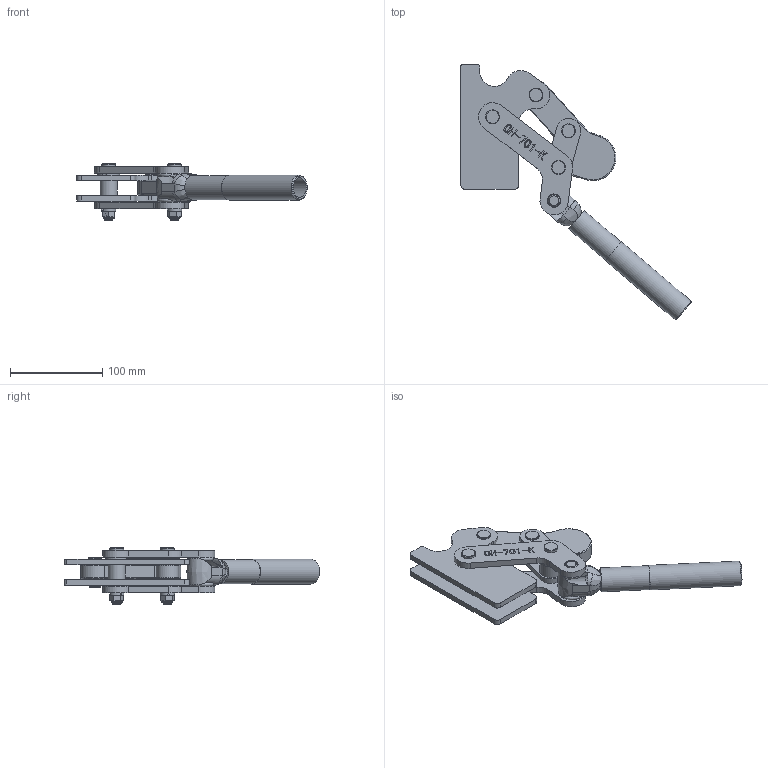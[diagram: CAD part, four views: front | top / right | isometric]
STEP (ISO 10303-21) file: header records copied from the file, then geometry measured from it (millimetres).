
FILE_DESCRIPTION(/* description */ ('STEP AP203'),/* implementation_level */ '2;1');
FILE_NAME(/* name */ 'D:\Vault_2016\Projekty\NASZ KATALOG\CLAMPTEK\STRONA\Heavy duty weldables\CH-701-K\CH-701-K_OTWARTY.stp',/* time_stamp */ '2019-01-14T14:04:32+01:00',/* author */ ('CADENGINEERING4'),/* organization */ ('Î¢ÈíÖÐ¹ú'),/* preprocessor_version */ 'ST-DEVELOPER v17.2',/* originating_system */ 'Autodesk Inventor 2019',/* authorisation */ '');
FILE_SCHEMA (('AUTOMOTIVE_DESIGN { 1 0 10303 214 3 1 1 }'));
Length unit declared in the file: millimetre
Products named in the file (14): CH-701-K_OTWARTY; 701-K-01_Ä¬ÈÏ; 702-K-08_Ä¬ÈÏ; 702-K-03_Ä¬ÈÏ; 702-K-06_Ä¬ÈÏ; 702-K-10_Ä¬ÈÏ; 702-K-12_Ä¬ÈÏ; 702-K-13_Ä¬ÈÏ; 702-K-14_Ä¬ÈÏ; 701-K-04_Ä¬ÈÏ; 702-K-15_Ä¬ÈÏ; 702-K-09_Ä¬ÈÏ; 702-K-05_Ä¬ÈÏ; 702-K-07_Ä¬ÈÏ
Assembly tree (19 placements, depth 2):
  CH-701-K_OTWARTY
    701-K-01_Ä¬ÈÏ
    702-K-08_Ä¬ÈÏ
    702-K-03_Ä¬ÈÏ
    702-K-06_Ä¬ÈÏ  x2
    702-K-14_Ä¬ÈÏ  x2
    702-K-15_Ä¬ÈÏ  x2
    702-K-12_Ä¬ÈÏ  x2
    702-K-13_Ä¬ÈÏ  x2
    702-K-10_Ä¬ÈÏ
    702-K-07_Ä¬ÈÏ  x2
    701-K-04_Ä¬ÈÏ
    702-K-09_Ä¬ÈÏ
    702-K-05_Ä¬ÈÏ
Bounding box: 249.48 x 276.85 x 61 mm (x, y, z)
Volume: 343070.5 mm3; surface area: 139238.2 mm2
Topology: 23 solids, 23 shells, 2194 faces, 6437 edges, 4316 vertices
Faces by surface type: plane 1439, cylinder 659, cone 50, bspline 32, torus 14
Full cylindrical faces by diameter (mm): 8.373 x2, 8.5 x8, 9.5 x2, 12 x2, 12.47 x4, 12.5 x12, 12.7 x4, 14.5 x2, 15 x4, 17 x6, 17.08 x2, 17.1 x2, 17.2 x1, 18.4 x1, 21.25 x1, 21.26 x1, 24.4 x1, 26 x1, 26.75 x1
Entity records: 51488 total; most frequent: CARTESIAN_POINT 12246, DIRECTION 8300, ORIENTED_EDGE 8222, EDGE_CURVE 4111, AXIS2_PLACEMENT_3D 2866, VERTEX_POINT 2761, LINE 2568, VECTOR 2568
